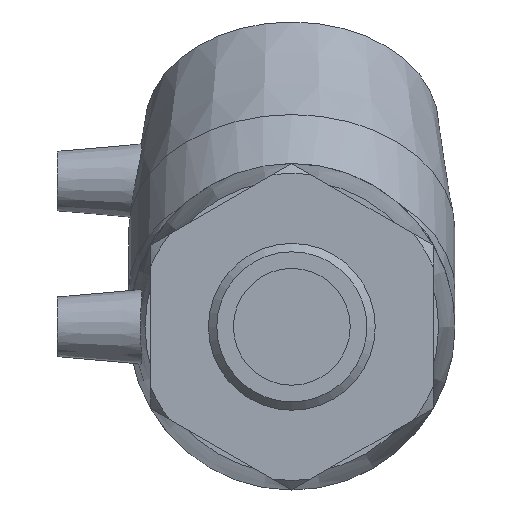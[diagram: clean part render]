
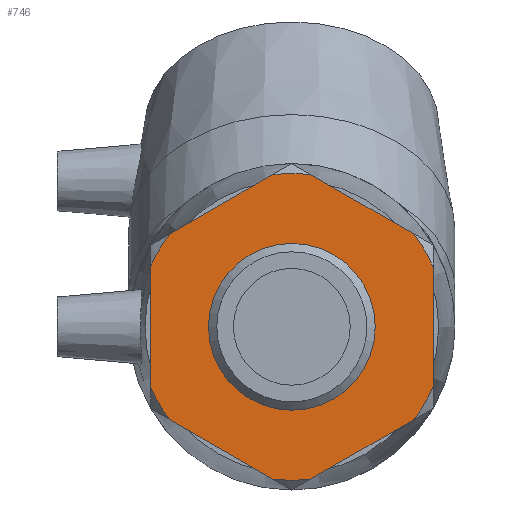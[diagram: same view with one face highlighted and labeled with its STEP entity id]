
A CAD part, left-side view. The second image highlights one B-rep face of the part: STEP entity #746.
In plain terms, the highlighted planar face has unit normal (-1, 0, 0).
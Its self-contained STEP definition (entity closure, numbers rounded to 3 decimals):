
#19=LINE('',#1163,#37);
#23=LINE('',#1187,#41);
#26=LINE('',#1209,#44);
#29=LINE('',#1231,#47);
#34=LINE('',#1268,#52);
#36=LINE('',#1287,#54);
#37=VECTOR('',#926,29.972);
#41=VECTOR('',#932,29.972);
#44=VECTOR('',#937,29.972);
#47=VECTOR('',#942,29.972);
#52=VECTOR('',#949,29.972);
#54=VECTOR('',#953,29.972);
#101=PLANE('',#813);
#121=FACE_BOUND('',#228,.T.);
#165=FACE_OUTER_BOUND('',#227,.T.);
#227=EDGE_LOOP('',(#584,#585,#586,#587,#588,#589,#590,#591,#592,#593,#594,
#595));
#228=EDGE_LOOP('',(#596));
#315=CIRCLE('',#806,20.955);
#316=CIRCLE('',#814,38.54);
#317=CIRCLE('',#815,38.54);
#318=CIRCLE('',#816,38.54);
#319=CIRCLE('',#817,38.54);
#320=CIRCLE('',#818,38.54);
#321=CIRCLE('',#819,38.54);
#364=VERTEX_POINT('',#1154);
#365=VERTEX_POINT('',#1157);
#367=VERTEX_POINT('',#1162);
#373=VERTEX_POINT('',#1182);
#374=VERTEX_POINT('',#1186);
#379=VERTEX_POINT('',#1204);
#380=VERTEX_POINT('',#1208);
#385=VERTEX_POINT('',#1226);
#386=VERTEX_POINT('',#1230);
#392=VERTEX_POINT('',#1249);
#396=VERTEX_POINT('',#1264);
#397=VERTEX_POINT('',#1270);
#400=VERTEX_POINT('',#1283);
#439=EDGE_CURVE('',#364,#364,#315,.T.);
#441=EDGE_CURVE('',#367,#365,#19,.T.);
#449=EDGE_CURVE('',#374,#373,#23,.T.);
#456=EDGE_CURVE('',#380,#379,#26,.T.);
#463=EDGE_CURVE('',#386,#385,#29,.T.);
#475=EDGE_CURVE('',#392,#396,#34,.T.);
#481=EDGE_CURVE('',#397,#400,#36,.T.);
#482=EDGE_CURVE('',#392,#400,#316,.T.);
#483=EDGE_CURVE('',#386,#396,#317,.T.);
#484=EDGE_CURVE('',#380,#385,#318,.T.);
#485=EDGE_CURVE('',#374,#379,#319,.T.);
#486=EDGE_CURVE('',#367,#373,#320,.T.);
#487=EDGE_CURVE('',#397,#365,#321,.T.);
#584=ORIENTED_EDGE('',*,*,#481,.T.);
#585=ORIENTED_EDGE('',*,*,#482,.F.);
#586=ORIENTED_EDGE('',*,*,#475,.T.);
#587=ORIENTED_EDGE('',*,*,#483,.F.);
#588=ORIENTED_EDGE('',*,*,#463,.T.);
#589=ORIENTED_EDGE('',*,*,#484,.F.);
#590=ORIENTED_EDGE('',*,*,#456,.T.);
#591=ORIENTED_EDGE('',*,*,#485,.F.);
#592=ORIENTED_EDGE('',*,*,#449,.T.);
#593=ORIENTED_EDGE('',*,*,#486,.F.);
#594=ORIENTED_EDGE('',*,*,#441,.T.);
#595=ORIENTED_EDGE('',*,*,#487,.F.);
#596=ORIENTED_EDGE('',*,*,#439,.T.);
#746=ADVANCED_FACE('',(#165,#121),#101,.T.);
#806=AXIS2_PLACEMENT_3D('',#1155,#922,#923);
#813=AXIS2_PLACEMENT_3D('',#1288,#954,#955);
#814=AXIS2_PLACEMENT_3D('',#1289,#956,#957);
#815=AXIS2_PLACEMENT_3D('',#1290,#958,#959);
#816=AXIS2_PLACEMENT_3D('',#1291,#960,#961);
#817=AXIS2_PLACEMENT_3D('',#1292,#962,#963);
#818=AXIS2_PLACEMENT_3D('',#1293,#964,#965);
#819=AXIS2_PLACEMENT_3D('',#1294,#966,#967);
#922=DIRECTION('center_axis',(1.,0.,0.));
#923=DIRECTION('ref_axis',(0.,0.,-1.));
#926=DIRECTION('',(0.,0.,-1.));
#932=DIRECTION('',(0.,0.866,-0.5));
#937=DIRECTION('',(0.,0.866,0.5));
#942=DIRECTION('',(0.,0.,1.));
#949=DIRECTION('',(0.,-0.866,0.5));
#953=DIRECTION('',(0.,-0.866,-0.5));
#954=DIRECTION('center_axis',(-1.,0.,0.));
#955=DIRECTION('ref_axis',(0.,0.,1.));
#956=DIRECTION('center_axis',(1.,0.,0.));
#957=DIRECTION('ref_axis',(0.,0.,1.));
#958=DIRECTION('center_axis',(1.,0.,0.));
#959=DIRECTION('ref_axis',(0.,0.,1.));
#960=DIRECTION('center_axis',(1.,0.,0.));
#961=DIRECTION('ref_axis',(0.,0.,1.));
#962=DIRECTION('center_axis',(1.,0.,0.));
#963=DIRECTION('ref_axis',(0.,0.,1.));
#964=DIRECTION('center_axis',(1.,0.,0.));
#965=DIRECTION('ref_axis',(0.,0.,1.));
#966=DIRECTION('center_axis',(1.,0.,0.));
#967=DIRECTION('ref_axis',(0.,0.,1.));
#1154=CARTESIAN_POINT('',(-80.512,0.,-20.955));
#1155=CARTESIAN_POINT('Origin',(-80.512,0.,0.));
#1157=CARTESIAN_POINT('',(-80.512,35.507,-14.986));
#1162=CARTESIAN_POINT('',(-80.512,35.507,14.986));
#1163=CARTESIAN_POINT('',(-80.512,35.507,-30.75));
#1182=CARTESIAN_POINT('',(-80.512,30.732,23.257));
#1186=CARTESIAN_POINT('',(-80.512,4.775,38.243));
#1187=CARTESIAN_POINT('',(-80.512,35.507,20.5));
#1204=CARTESIAN_POINT('',(-80.512,-4.775,38.243));
#1208=CARTESIAN_POINT('',(-80.512,-30.732,23.257));
#1209=CARTESIAN_POINT('',(-80.512,-17.754,30.75));
#1226=CARTESIAN_POINT('',(-80.512,-35.507,14.986));
#1230=CARTESIAN_POINT('',(-80.512,-35.507,-14.986));
#1231=CARTESIAN_POINT('',(-80.512,-35.507,-10.25));
#1249=CARTESIAN_POINT('',(-80.512,-4.775,-38.243));
#1264=CARTESIAN_POINT('',(-80.512,-30.732,-23.257));
#1268=CARTESIAN_POINT('',(-80.512,-17.754,-30.75));
#1270=CARTESIAN_POINT('',(-80.512,30.732,-23.257));
#1283=CARTESIAN_POINT('',(-80.512,4.775,-38.243));
#1287=CARTESIAN_POINT('',(-80.512,0.,-41.));
#1288=CARTESIAN_POINT('Origin',(-80.512,0.,-41.));
#1289=CARTESIAN_POINT('Origin',(-80.512,0.,0.));
#1290=CARTESIAN_POINT('Origin',(-80.512,0.,0.));
#1291=CARTESIAN_POINT('Origin',(-80.512,0.,0.));
#1292=CARTESIAN_POINT('Origin',(-80.512,0.,0.));
#1293=CARTESIAN_POINT('Origin',(-80.512,0.,0.));
#1294=CARTESIAN_POINT('Origin',(-80.512,0.,0.));
